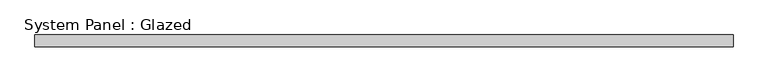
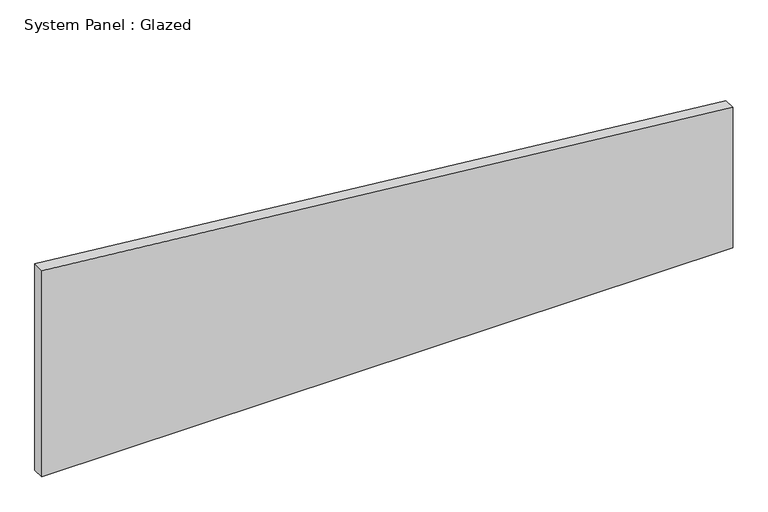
"""IFC4 building model written with IfcOpenShell, lengths in millimetres: plate geometry, System Panel : Glazed."""

from ifc_helpers import new_model, si_unit, frame, origin, place, context, project, spatial, polyline, outline, extrude, source, transform, mapped, element, save


def system_panel_glazed_ae0156a9(model_context):
    return source(origin(), model_context, "Body", "SweptSolid", [
        extrude(outline(polyline([(0.0, -735.8695652), (0.0, 735.8695652), (316.3976736, 735.8695652), (464.3806523, -735.8695652), (0.0, -735.8695652)])), frame((0.0, 24.5, 0.0), z_axis=(0.0, 1.0, 0.0), x_axis=(0.0, 0.0, 1.0)), (0.0, 0.0, 1.0), 25.0),
    ])


if __name__ == "__main__":
    model = new_model("IFC4")
    model_context = context("Model", 3, world=origin())
    ifc_project = project(units=[si_unit("LENGTHUNIT", "METRE", prefix="MILLI")], contexts=[model_context])
    site = spatial("IfcSite", under=ifc_project)
    building = spatial("IfcBuilding", under=site)
    placement = place(None, origin())
    system_panel_glazed_shape = system_panel_glazed_ae0156a9(model_context)
    element("IfcPlate", 1, ObjectType="System Panel : Glazed", at=placement, inside=building, context=model_context, shape_type="MappedRepresentation", body=[
        mapped(system_panel_glazed_shape, transform((0.0, 0.0, 0.0), x_axis=(1.0, 0.0, 0.0), y_axis=(0.0, 1.0, 0.0), z_axis=(0.0, 0.0, 1.0))),
    ])
    save(model, "model.ifc")
